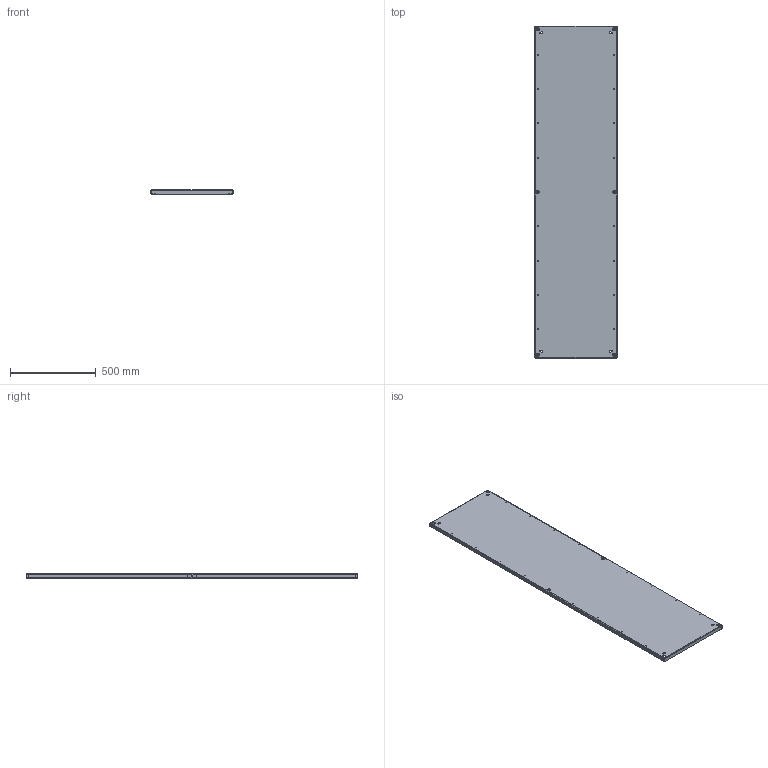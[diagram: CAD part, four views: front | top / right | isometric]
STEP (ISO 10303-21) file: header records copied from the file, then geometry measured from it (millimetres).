
FILE_DESCRIPTION(('STEP AP203'), '1');
FILE_NAME('Ïàíåëü ìîíòàæíàÿ óñèëåííàÿ Â2000õØ600 ìì OptiBox M 419717 ÊÝÀÇ', '', ('UNSPECIFIED'), ('UNSPECIFIED'), 'C3D Converter', 'C3D Toolkit', '');
FILE_SCHEMA(('CONFIG_CONTROL_DESIGN'));
Length unit declared in the file: millimetre
Bounding box: 478 x 1933 x 24.6 mm (x, y, z)
Volume: 3288777.1 mm3; surface area: 2211385.5 mm2
Topology: 1 solids, 1 shells, 112 faces, 282 edges, 172 vertices
Faces by surface type: cylinder 58, plane 46, bspline 8
Full cylindrical faces by diameter (mm): 5 x28, 7.3 x2, 9 x6, 18 x6
Entity records: 4732 total; most frequent: CARTESIAN_POINT 1985, DIRECTION 530, ORIENTED_EDGE 480, EDGE_LOOP 246, EDGE_CURVE 240, AXIS2_PLACEMENT_3D 205, VERTEX_POINT 172, FACE_BOUND 162
